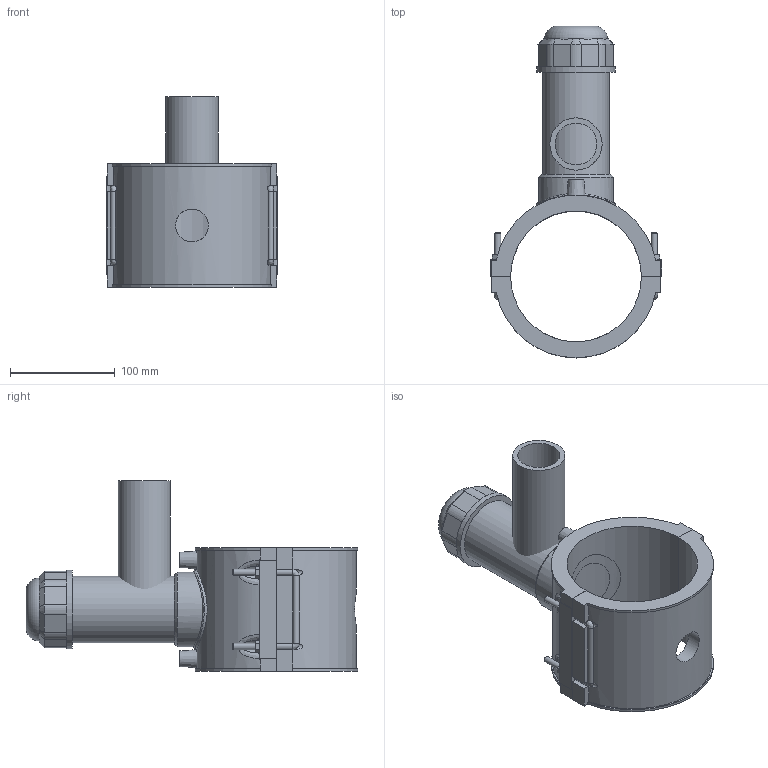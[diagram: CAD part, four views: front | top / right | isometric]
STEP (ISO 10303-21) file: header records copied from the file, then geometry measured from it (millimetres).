
FILE_DESCRIPTION(/* description */ (''),/* implementation_level */ '2;1');
FILE_NAME(/* name */ 'C:\Dropbox\KIMPROJECTS-Inventor 2019\99-16-3568-Processing\ElectroFusion Fittings\4963P4\stp\4963P4125050.stp',/* time_stamp */ '2022-03-17T11:28:53+02:00',/* author */ ('KIM'),/* organization */ (''),/* preprocessor_version */ 'ST-DEVELOPER v17.2',/* originating_system */ 'Autodesk Inventor 2019',/* authorisation */ '');
FILE_SCHEMA (('AUTOMOTIVE_DESIGN { 1 0 10303 214 3 1 1 }'));
Length unit declared in the file: millimetre
Products named in the file (1): 4963P4125050
Bounding box: 164 x 317.27 x 182 mm (x, y, z)
Volume: 1176528.4 mm3; surface area: 242768.1 mm2
Topology: 3 solids, 3 shells, 201 faces, 519 edges, 333 vertices
Faces by surface type: plane 119, cylinder 53, cone 15, bspline 13, torus 1
Full cylindrical faces by diameter (mm): 4 x2, 6 x8, 10 x2, 31.36 x1, 40 x1, 50 x1, 52.5 x1, 63.75 x1, 71.25 x1, 75 x2
Entity records: 7318 total; most frequent: CARTESIAN_POINT 2439, ORIENTED_EDGE 1022, DIRECTION 966, EDGE_CURVE 511, VERTEX_POINT 333, AXIS2_PLACEMENT_3D 331, LINE 304, VECTOR 304
